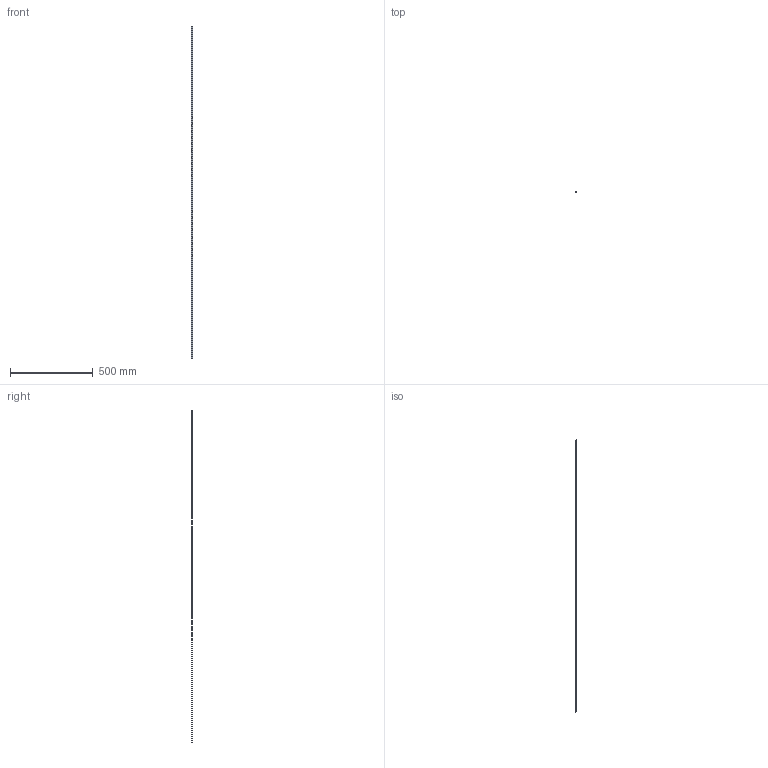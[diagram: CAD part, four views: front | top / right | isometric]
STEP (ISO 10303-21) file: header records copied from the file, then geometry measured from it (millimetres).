
FILE_DESCRIPTION (( 'STEP AP203' ), '1' );
FILE_NAME ('ChannelLine_i_24.STEP', '2024-11-29T06:18:36', ( '' ), ( '' ), 'SwSTEP 2.0', 'SolidWorks 2023', '' );
FILE_SCHEMA (( 'CONFIG_CONTROL_DESIGN' ));
Length unit declared in the file: millimetre
Products named in the file (3): 2556001_Pr02669_Al-Profil_ChannelLine_I; 2584901_25.849.02 - L=2000mm; ChannelLine_i_24
Assembly tree (2 placements, depth 2):
  ChannelLine_i_24
    2556001_Pr02669_Al-Profil_ChannelLine_I
    2584901_25.849.02 - L=2000mm
Bounding box: 11 x 6 x 2000 mm (x, y, z)
Volume: 86187 mm3; surface area: 143907.2 mm2
Topology: 2 solids, 2 shells, 64 faces, 180 edges, 120 vertices
Faces by surface type: cylinder 33, plane 31
Entity records: 2395 total; most frequent: DIRECTION 384, CARTESIAN_POINT 369, ORIENTED_EDGE 360, EDGE_CURVE 180, AXIS2_PLACEMENT_3D 135, VERTEX_POINT 120, LINE 114, VECTOR 114
